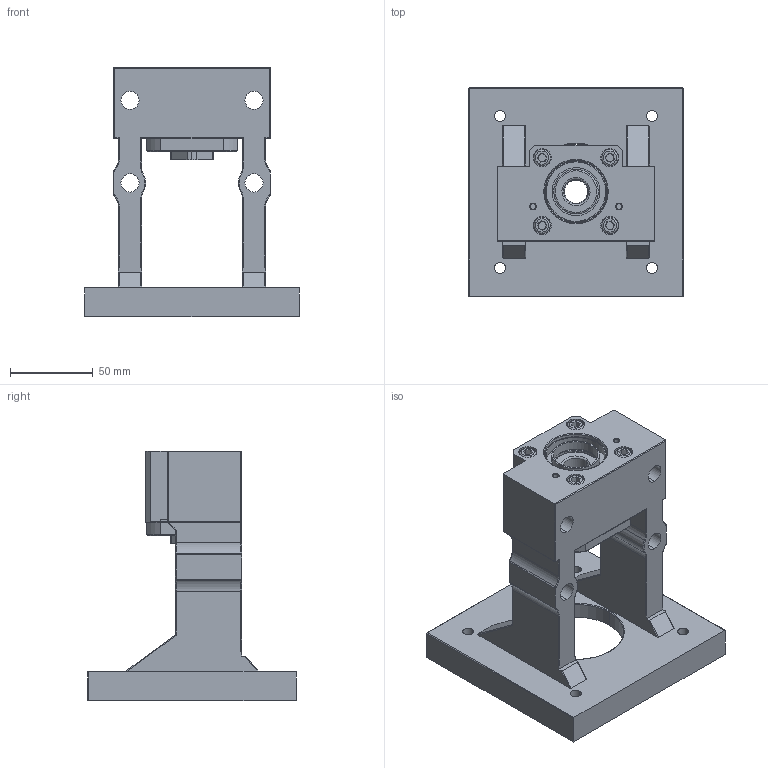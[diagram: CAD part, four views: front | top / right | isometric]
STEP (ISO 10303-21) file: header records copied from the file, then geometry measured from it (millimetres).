
FILE_DESCRIPTION (( 'STEP AP203' ), '1' );
FILE_NAME ('MBCS15-S.STEP', '2017-12-28T07:48:36', ( '' ), ( '' ), 'SwSTEP 2.0', 'SolidWorks 2017', '' );
FILE_SCHEMA (( 'CONFIG_CONTROL_DESIGN' ));
Length unit declared in the file: millimetre
Products named in the file (1): MBCS15-S
Bounding box: 130 x 126 x 151 mm (x, y, z)
Surface area: 104913.1 mm2 (no closed solid volume)
Topology: 0 solids, 23 shells, 362 faces, 930 edges, 590 vertices
Faces by surface type: cylinder 151, plane 105, torus 50, cone 42, sphere 14
Entity records: 11128 total; most frequent: CARTESIAN_POINT 2301, DIRECTION 1968, ORIENTED_EDGE 1673, EDGE_CURVE 898, AXIS2_PLACEMENT_3D 777, VERTEX_POINT 572, EDGE_LOOP 422, CIRCLE 414
